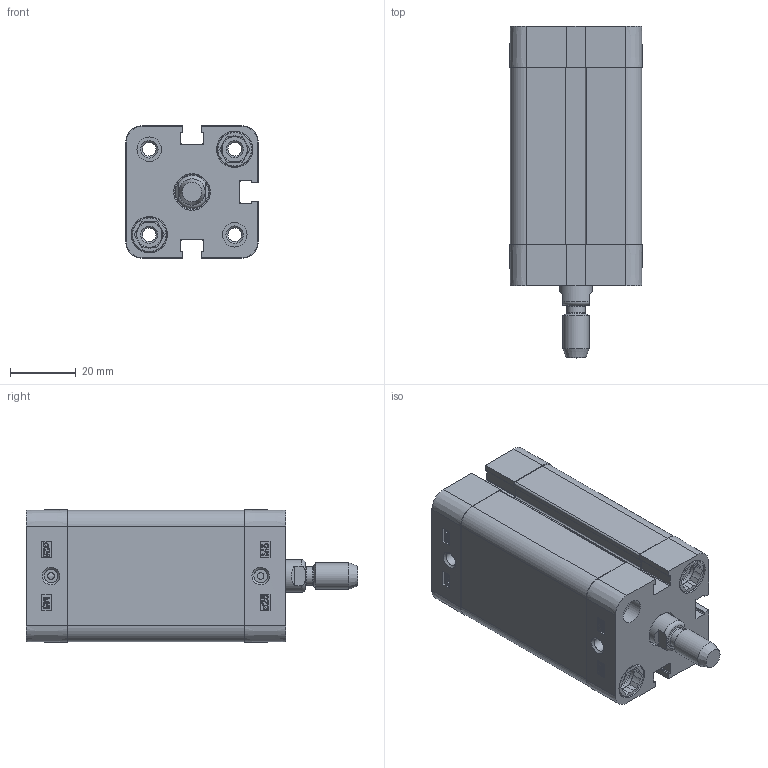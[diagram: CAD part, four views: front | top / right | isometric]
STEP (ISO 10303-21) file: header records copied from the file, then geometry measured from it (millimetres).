
FILE_DESCRIPTION((''),'2;1');
FILE_NAME('T:\Archivio Inventor\- CATALOGHI 2012\SERIE P - NUOVA\PDM\PDM025\PDM025.---.GS.M\PDM025.040.GS.M.stp','2013-01-31T08:06:34',('Administrator'),(''),'Autodesk Inventor 2012','Autodesk Inventor 2012','');
FILE_SCHEMA(('CONFIG_CONTROL_DESIGN'));
Length unit declared in the file: millimetre
Products named in the file (1): PDM025.040.GS.M
Bounding box: 40.3 x 101 x 40.3 mm (x, y, z)
Volume: 71434.3 mm3; surface area: 35846.8 mm2
Topology: 1 solids, 3 shells, 596 faces, 1552 edges, 1017 vertices
Faces by surface type: plane 312, cylinder 130, bspline 92, cone 50, torus 12
Full cylindrical faces by diameter (mm): 2 x2, 4.134 x10, 5.8 x1, 7.5 x4, 7.55 x2, 8 x9, 9 x1, 10 x1, 10.5 x1, 10.8 x4, 11.1 x4, 25 x1, 27.3 x1, 27.5 x1
Entity records: 18782 total; most frequent: CARTESIAN_POINT 4306, ORIENTED_EDGE 2888, DIRECTION 2606, EDGE_CURVE 1444, VERTEX_POINT 1002, VECTOR 898, LINE 898, AXIS2_PLACEMENT_3D 854
